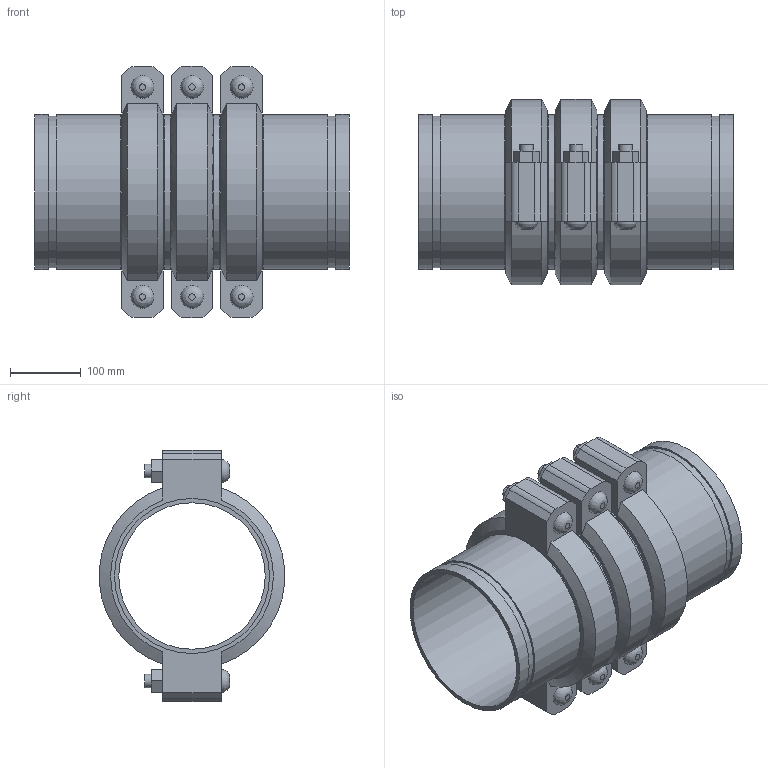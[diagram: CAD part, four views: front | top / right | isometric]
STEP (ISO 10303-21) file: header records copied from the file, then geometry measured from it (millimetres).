
FILE_DESCRIPTION(/* description */ ('VIC EXPANSION JOINT 3 COUPLINGS COMPRESSED STYLE 155 (OGS)','CAx-IF Rec.Pracs.---Representation and Presentation of Product Manufacturing Information (PMI)---4.0---2014-10-13'),/* implementation_level */ '2;1');
FILE_NAME(/* name */ 'C:\Users\kkamble\AppData\Roaming\Autodesk\ApplicationPlugins\Victaulic.Temp\A971\Victaulic_IPS_Expansion Joint_Compressed_3 Couplings_Style 155 (OGS)_8 (200).stp',/* time_stamp */ '2021-06-27T00:25:56+02:00',/* author */ ('kkamble'),/* organization */ ('Victaulic'),/* preprocessor_version */ 'ST-DEVELOPER v17.2',/* originating_system */ 'Autodesk Inventor 2019',/* authorisation */ '');
FILE_SCHEMA (('AP242_MANAGED_MODEL_BASED_3D_ENGINEERING_MIM_LF { 1 0 10303 442 1 1 4 }'));
Length unit declared in the file: inch
Products named in the file (4): 155-08.0; Nipple-08.0; Nipple-08.0_1; 075_3_Coup-08.0
Assembly tree (7 placements, depth 2):
  155-08.0
    Nipple-08.0  x2
    Nipple-08.0_1  x2
    075_3_Coup-08.0  x3
Bounding box: 444.5 x 261.72 x 354.84 mm (x, y, z)
Volume: 5758749.7 mm3; surface area: 1159474.4 mm2
Topology: 7 solids, 13 shells, 219 faces, 519 edges, 366 vertices
Faces by surface type: plane 132, cylinder 69, cone 12, bspline 6
Full cylindrical faces by diameter (mm): 19.05 x12, 21.209 x6, 206.985 x4, 212.725 x3, 214.401 x8, 219.075 x18
Entity records: 2778 total; most frequent: CARTESIAN_POINT 491, DIRECTION 457, ORIENTED_EDGE 386, EDGE_CURVE 193, AXIS2_PLACEMENT_3D 182, VERTEX_POINT 138, EDGE_LOOP 107, LINE 93
